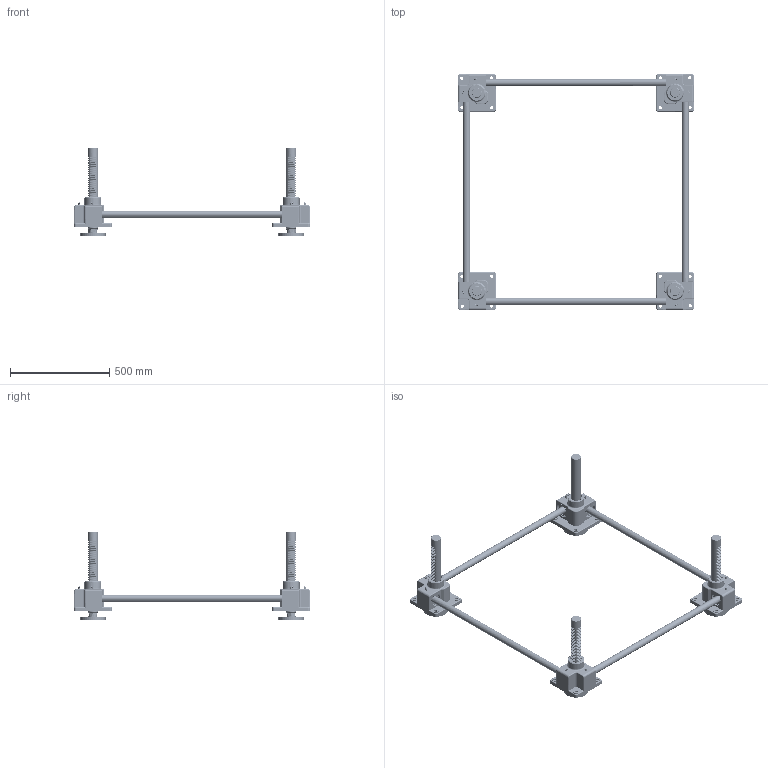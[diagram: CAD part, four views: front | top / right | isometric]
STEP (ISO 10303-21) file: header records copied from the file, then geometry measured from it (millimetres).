
FILE_DESCRIPTION(('STEP AP203'),'1');
FILE_NAME('SP10000FU-1000x1000-250ST.stp','2022-06-15T02:20:03',(' '),(' '),'Spatial InterOp 3D',' ',' ');
FILE_SCHEMA(('CONFIG_CONTROL_DESIGN'));
Length unit declared in the file: millimetre
Products named in the file (91): SP10000FU-1000x1000-250ST; ASSEM1; Flange.1-Part; Flange.1; Joint.1; Nut.1; Flange.2-Part; Flange.2; Joint.2; Nut.2; Flange.3-Part; Flange.3; Joint.3; Nut.3; Flange.4-Part; Flange.4; Joint.4; Nut.4; Body.1-Part; SnapRing-68Pie; SnapRing-75Pie; #2611; #2628; #2645; #2662; Nipple; Gear Box.1(NSP-10000); RJ05-4SCJ-610X600-100ST_CAP; LABEL-B.1; ___; 파트18; __; Body.2-Part; #2930; #2947; #2964; #2981; Gear Box.2(NSP-10000); Body.3-Part; #3215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
Assembly tree (92 placements, depth 6):
  SP10000FU-1000x1000-250ST
    ASSEM1
    (unnamed)
    (unnamed)
    (unnamed)
    Flange.1-Part
      Flange.1
      Joint.1
      Nut.1
    Flange.2-Part
      Flange.2
      Joint.2
      Nut.2
    Flange.3-Part
      Flange.3
      Joint.3
      Nut.3
    Flange.4-Part
      Flange.4
      Joint.4
      Nut.4
    Body.1-Part
      SnapRing-68Pie
      SnapRing-68Pie
      SnapRing-75Pie
      SnapRing-75Pie
      #2611
      #2628
      #2645
      #2662
      Nipple
      Nipple
      Gear Box.1(NSP-10000)
      __
        ___
          RJ05-4SCJ-610X600-100ST_CAP
            LABEL-B.1
          파트18
    Body.2-Part
      Nipple
      Nipple
      SnapRing-68Pie
      SnapRing-68Pie
      SnapRing-75Pie
      SnapRing-75Pie
      #2930
      #2947
      #2964
      #2981
      Gear Box.2(NSP-10000)
      __
        ___
          RJ05-4SCJ-610X600-100ST_CAP
            LABEL-B.1
          파트18
    Body.3-Part
      Nipple
      Nipple
      SnapRing-68Pie
      SnapRing-68Pie
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Bounding box: 1191.19 x 1191.19 x 445 mm (x, y, z)
Volume: 13526018.3 mm3; surface area: 2188002.7 mm2
Topology: 100 solids, 100 shells, 10536 faces, 28752 edges, 18368 vertices
Faces by surface type: plane 8064, cylinder 1336, sphere 384, torus 248, revolution 168, extrusion 152, cone 128, bspline 56
Full cylindrical faces by diameter (mm): 3.817 x16, 4.211 x16, 4.8 x8, 8 x8, 9.886 x8, 16 x32, 28 x4, 29 x8, 30 x24, 32 x4, 35 x12, 39 x8, 44 x4, 44.54 x16, 45 x4, 50 x12, 54 x4, 55 x8, 60 x16, 62.72 x16, 65 x8, 68 x8, 72 x16, 72.4 x8, 75 x8, 84 x4, 127 x4
Entity records: 335802 total; most frequent: CARTESIAN_POINT 70815, ORIENTED_EDGE 54744, DIRECTION 51106, EDGE_CURVE 27372, VECTOR 22652, LINE 22500, VERTEX_POINT 17956, AXIS2_PLACEMENT_3D 14143
